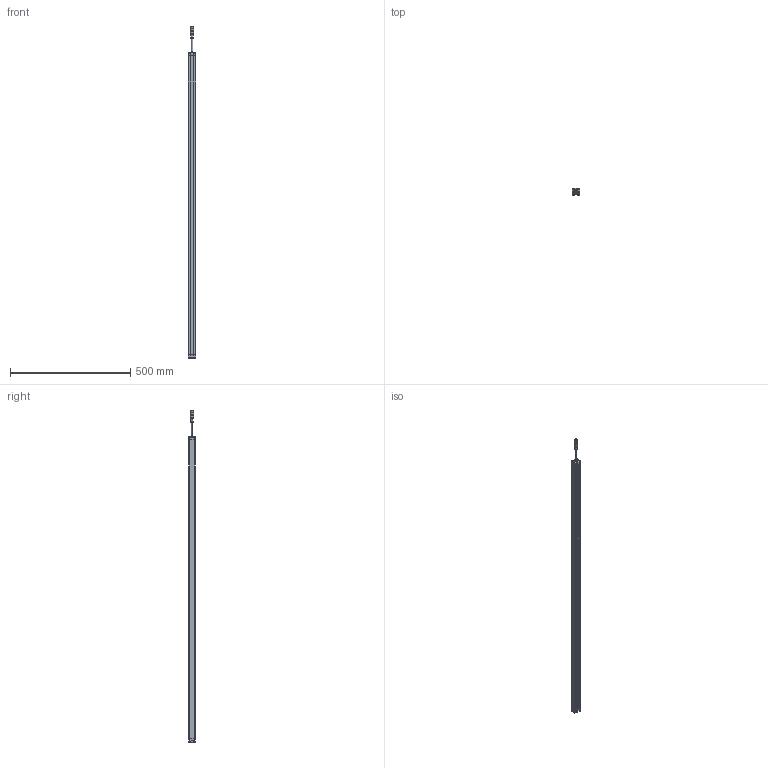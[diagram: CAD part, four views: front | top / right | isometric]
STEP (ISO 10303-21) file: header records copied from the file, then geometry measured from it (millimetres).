
FILE_DESCRIPTION((''),'2;1');
FILE_NAME('SMT1-CGQ_ASM','2025-08-08T08:41:46',('Administrator'),(''),'CREO PARAMETRIC BY PTC INC, 2016510','CREO PARAMETRIC BY PTC INC, 2016510','');
FILE_SCHEMA(('CONFIG_CONTROL_DESIGN'));
Length unit declared in the file: millimetre
Products named in the file (7): SMT1-XINGCAI-V1; SMT1-SDG-V1; SMT1-XDG-V1; M12-CHATOU; ST3X18; CT4-LVGUANGBAN; SMT1-CGQ_ASM
Assembly tree (13 placements, depth 2):
  SMT1-CGQ_ASM
    SMT1-XINGCAI-V1
    SMT1-SDG-V1
    SMT1-XDG-V1
    M12-CHATOU
    ST3X18  x8
    CT4-LVGUANGBAN
Bounding box: 33 x 28.02 x 1379.5 mm (x, y, z)
Volume: 982887.3 mm3; surface area: 315516.8 mm2
Topology: 13 solids, 13 shells, 712 faces, 1868 edges, 1200 vertices
Faces by surface type: plane 382, cylinder 184, extrusion 86, sphere 32, cone 20, bspline 8
Entity records: 18128 total; most frequent: CARTESIAN_POINT 4347, ORIENTED_EDGE 2916, DIRECTION 2580, EDGE_CURVE 1458, VECTOR 1036, VERTEX_POINT 955, LINE 950, AXIS2_PLACEMENT_3D 772
